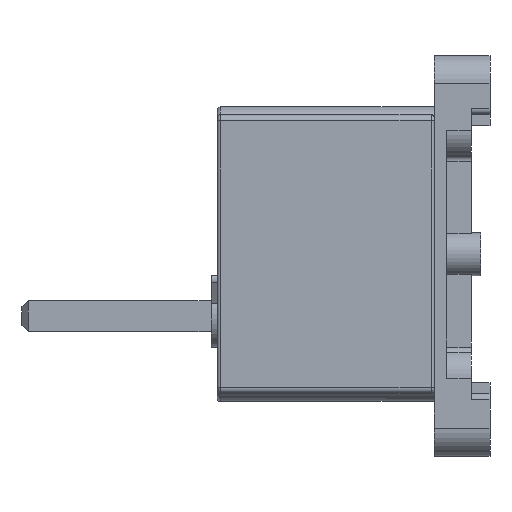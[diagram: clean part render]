
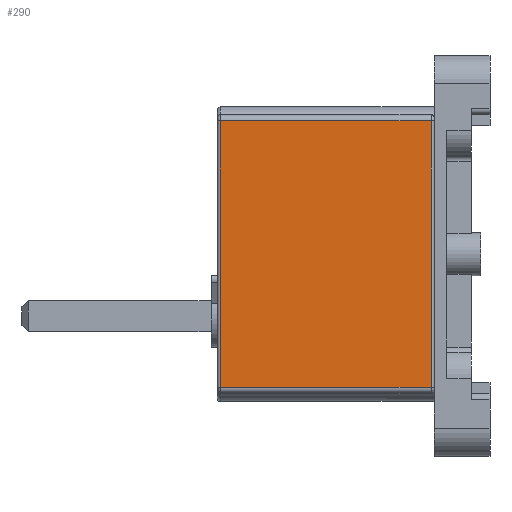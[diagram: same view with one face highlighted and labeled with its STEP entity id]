
A CAD part, left-side view. The second image highlights one B-rep face of the part: STEP entity #290.
In plain terms, the highlighted planar face has unit normal (-1, 0, 0).
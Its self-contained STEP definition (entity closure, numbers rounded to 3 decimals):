
#290=ADVANCED_FACE('',(#597),#491,.F.);
#491=PLANE('',#3761);
#597=FACE_OUTER_BOUND('',#765,.T.);
#765=EDGE_LOOP('',(#1331,#1332,#1333,#1334));
#1331=ORIENTED_EDGE('',*,*,#2674,.F.);
#1332=ORIENTED_EDGE('',*,*,#2675,.T.);
#1333=ORIENTED_EDGE('',*,*,#2671,.T.);
#1334=ORIENTED_EDGE('',*,*,#2676,.T.);
#2317=VERTEX_POINT('',#5543);
#2318=VERTEX_POINT('',#5544);
#2319=VERTEX_POINT('',#5549);
#2320=VERTEX_POINT('',#5550);
#2671=EDGE_CURVE('',#2317,#2318,#3135,.T.);
#2674=EDGE_CURVE('',#2319,#2320,#3136,.T.);
#2675=EDGE_CURVE('',#2319,#2317,#3137,.T.);
#2676=EDGE_CURVE('',#2318,#2320,#3138,.T.);
#3135=LINE('',#5542,#3443);
#3136=LINE('',#5548,#3444);
#3137=LINE('',#5551,#3445);
#3138=LINE('',#5552,#3446);
#3443=VECTOR('',#4278,1.);
#3444=VECTOR('',#4285,1.);
#3445=VECTOR('',#4286,1.);
#3446=VECTOR('',#4287,1.);
#3761=AXIS2_PLACEMENT_3D('',#5553,#4288,#4289);
#4278=DIRECTION('',(0.,-1.,0.));
#4285=DIRECTION('',(0.,-1.,0.));
#4286=DIRECTION('',(0.,0.,-1.));
#4287=DIRECTION('',(0.,0.,1.));
#4288=DIRECTION('',(1.,0.,0.));
#4289=DIRECTION('',(0.,0.,-1.));
#5542=CARTESIAN_POINT('',(-41.,35.,-43.));
#5543=CARTESIAN_POINT('',(-41.,69.,-43.));
#5544=CARTESIAN_POINT('',(-41.,1.,-43.));
#5548=CARTESIAN_POINT('',(-41.,35.,43.));
#5549=CARTESIAN_POINT('',(-41.,69.,43.));
#5550=CARTESIAN_POINT('',(-41.,1.,43.));
#5551=CARTESIAN_POINT('',(-41.,69.,-43.));
#5552=CARTESIAN_POINT('',(-41.,1.,-43.));
#5553=CARTESIAN_POINT('',(-41.,35.,-43.));
